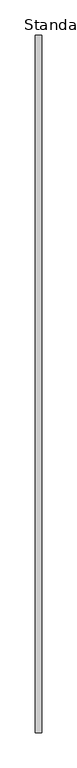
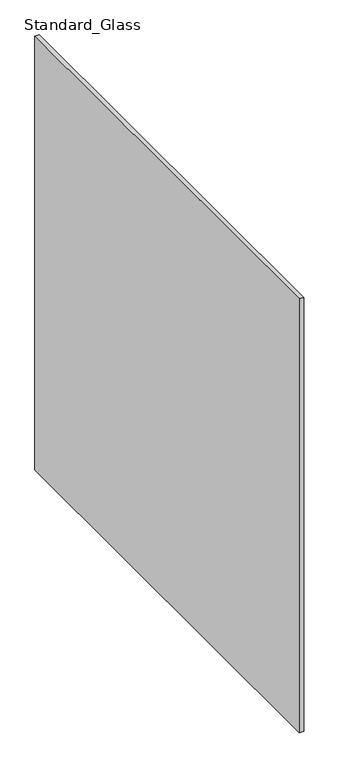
"""IFC4 building model written with IfcOpenShell, lengths in millimetres: railing geometry, Baluster-Excess-Fill-Straight-Panel-VIVA : Standard_Glass."""

from ifc_helpers import new_model, si_unit, frame, origin, place, context, project, spatial, polyline, outline, extrude, source, transform, mapped, element, save


def standard_glass_702ddc61(model_context):
    return source(origin(), model_context, "Body", "SweptSolid", [
        extrude(outline(polyline([(36.7665, -1.0851207), (36.7665, -996.9418182), (27.2415, -996.9418182), (27.2415, -1.0851207), (36.7665, -1.0851207)])), frame((0.0, 0.0, 76.581), z_axis=(0.0, 0.0, 1.0), x_axis=(1.0, 0.0, 0.0)), (0.0, 0.0, 1.0), 998.22),
    ])


if __name__ == "__main__":
    model = new_model("IFC4")
    model_context = context("Model", 3, world=origin())
    ifc_project = project(units=[si_unit("LENGTHUNIT", "METRE", prefix="MILLI")], contexts=[model_context])
    site = spatial("IfcSite", under=ifc_project)
    building = spatial("IfcBuilding", under=site)
    placement = place(None, origin())
    standard_glass_shape = standard_glass_702ddc61(model_context)
    element("IfcRailing", 1, ObjectType="Baluster-Excess-Fill-Straight-Panel-VIVA : Standard_Glass", at=placement, inside=building, context=model_context, shape_type="MappedRepresentation", body=[
        mapped(standard_glass_shape, transform((0.0, 0.0, 0.0), x_axis=(1.0, 0.0, 0.0), y_axis=(0.0, 1.0, 0.0), z_axis=(0.0, 0.0, 1.0))),
    ])
    save(model, "model.ifc")
